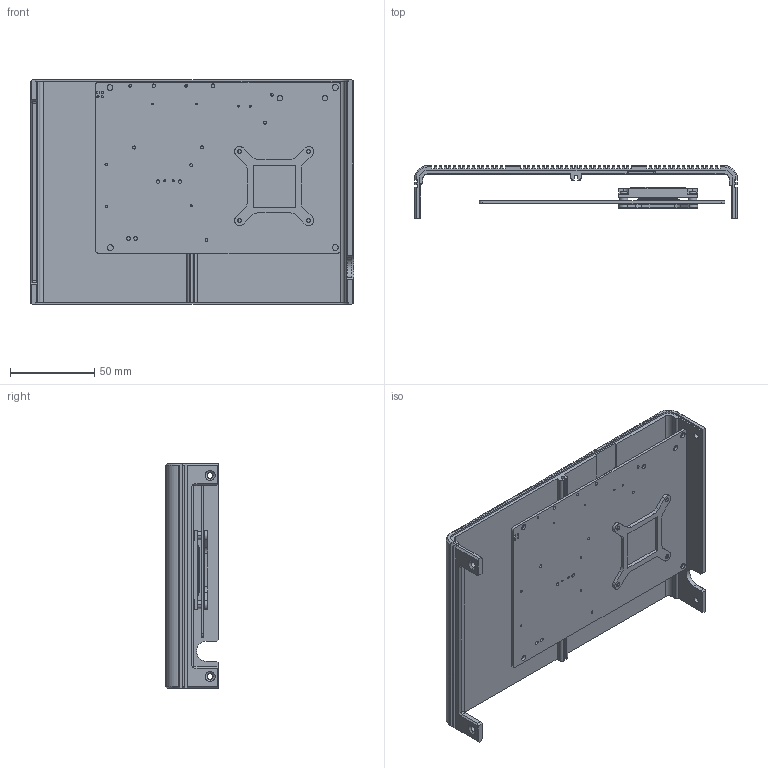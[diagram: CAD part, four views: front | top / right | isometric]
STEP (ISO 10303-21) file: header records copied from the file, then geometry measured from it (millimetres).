
FILE_DESCRIPTION((''),'2;1');
FILE_NAME('ECM-APL2_0001_ASM','2019-10-08T15:56:10',('jamie_liao'),(''),'CREO PARAMETRIC BY PTC INC, 2017110','CREO PARAMETRIC BY PTC INC, 2017110','');
FILE_SCHEMA(('CONFIG_CONTROL_DESIGN','GEOMETRIC_VALIDATION_PROPERTIES_MIM'));
Length unit declared in the file: millimetre
Products named in the file (6): 00; THERMAL_PAD; THERAMAL_PAD_0_5T; E1933010810R_SCREW_2; E195BKECMBYT00R_1; ECM-APL2_0001_ASM
Assembly tree (8 placements, depth 2):
  ECM-APL2_0001_ASM
    00
    THERMAL_PAD
    THERAMAL_PAD_0_5T
    E1933010810R_SCREW_2  x4
    E195BKECMBYT00R_1
Bounding box: 192 x 31.5 x 133.5 mm (x, y, z)
Volume: 14254.6 mm3; surface area: 141206 mm2
Topology: 8 solids, 11 shells, 808 faces, 2329 edges, 1557 vertices
Faces by surface type: plane 580, cylinder 189, cone 23, torus 16
Entity records: 29684 total; most frequent: CARTESIAN_POINT 4277, ORIENTED_EDGE 4094, DIRECTION 3845, EDGE_CURVE 2047, PRESENTATION_STYLE_ASSIGNMENT 1934, STYLED_ITEM 1934, CURVE_STYLE 1929, VECTOR 1643
